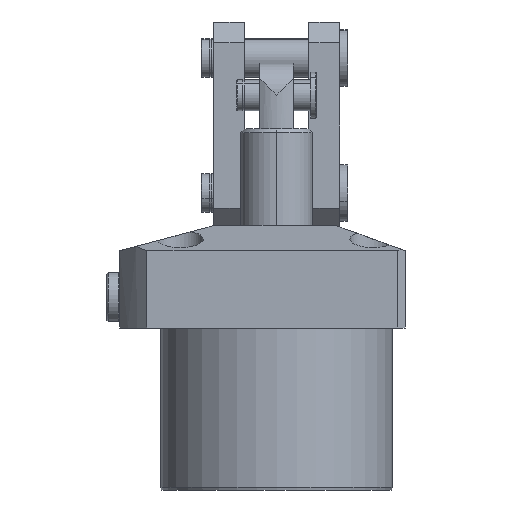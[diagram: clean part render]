
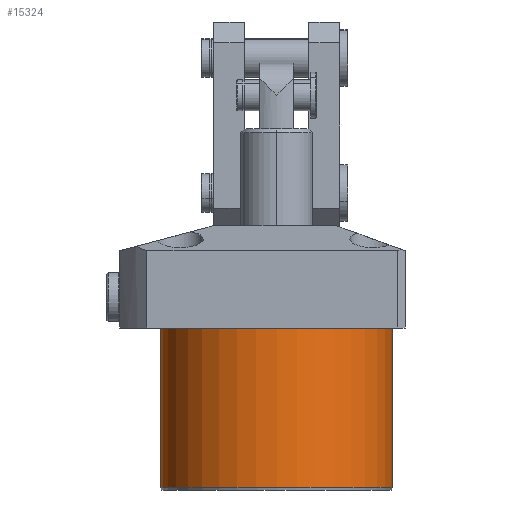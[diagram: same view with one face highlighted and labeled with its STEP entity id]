
A CAD part, front view. The second image highlights one B-rep face of the part: STEP entity #15324.
In plain terms, the highlighted cylindrical face has radius 45 mm (diameter 90 mm), a partial arc.
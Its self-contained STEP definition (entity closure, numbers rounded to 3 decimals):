
#37 = VERTEX_POINT ( 'NONE', #11330 ) ;
#71 = ORIENTED_EDGE ( 'NONE', *, *, #2460, .T. ) ;
#140 = CARTESIAN_POINT ( 'NONE',  ( -45., 0., 0. ) ) ;
#577 = DIRECTION ( 'NONE',  ( 0., 0., 1. ) ) ;
#1499 = CIRCLE ( 'NONE', #11914, 45. ) ;
#1881 = LINE ( 'NONE', #4262, #15662 ) ;
#2335 = VERTEX_POINT ( 'NONE', #140 ) ;
#2373 = ORIENTED_EDGE ( 'NONE', *, *, #9874, .T. ) ;
#2460 = EDGE_CURVE ( 'NONE', #12181, #2335, #1499, .T. ) ;
#2752 = CARTESIAN_POINT ( 'NONE',  ( 0., 0., -63. ) ) ;
#3045 = EDGE_CURVE ( 'NONE', #14276, #12181, #14637, .T. ) ;
#3112 = CARTESIAN_POINT ( 'NONE',  ( 45., 0., 0. ) ) ;
#3559 = EDGE_LOOP ( 'NONE', ( #12549, #2373, #9846, #71 ) ) ;
#3628 = DIRECTION ( 'NONE',  ( 0., 0., 1. ) ) ;
#4158 = EDGE_CURVE ( 'NONE', #37, #2335, #1881, .T. ) ;
#4262 = CARTESIAN_POINT ( 'NONE',  ( -45., 0., -63. ) ) ;
#4546 = AXIS2_PLACEMENT_3D ( 'NONE', #8515, #577, #9878 ) ;
#7158 = CYLINDRICAL_SURFACE ( 'NONE', #10711, 45. ) ;
#8515 = CARTESIAN_POINT ( 'NONE',  ( 0., 0., -62. ) ) ;
#9185 = CIRCLE ( 'NONE', #4546, 45. ) ;
#9846 = ORIENTED_EDGE ( 'NONE', *, *, #3045, .T. ) ;
#9874 = EDGE_CURVE ( 'NONE', #37, #14276, #9185, .T. ) ;
#9878 = DIRECTION ( 'NONE',  ( -1., 0., 0. ) ) ;
#10634 = VECTOR ( 'NONE', #11948, 1000. ) ;
#10711 = AXIS2_PLACEMENT_3D ( 'NONE', #2752, #14681, #12029 ) ;
#11330 = CARTESIAN_POINT ( 'NONE',  ( -45., 0., -62. ) ) ;
#11843 = CARTESIAN_POINT ( 'NONE',  ( 45., 0., -63. ) ) ;
#11914 = AXIS2_PLACEMENT_3D ( 'NONE', #16527, #16490, #16456 ) ;
#11948 = DIRECTION ( 'NONE',  ( 0., 0., 1. ) ) ;
#12029 = DIRECTION ( 'NONE',  ( 1., 0., 0. ) ) ;
#12181 = VERTEX_POINT ( 'NONE', #3112 ) ;
#12549 = ORIENTED_EDGE ( 'NONE', *, *, #4158, .F. ) ;
#12958 = CARTESIAN_POINT ( 'NONE',  ( 45., 0., -62. ) ) ;
#14276 = VERTEX_POINT ( 'NONE', #12958 ) ;
#14336 = FACE_OUTER_BOUND ( 'NONE', #3559, .T. ) ;
#14637 = LINE ( 'NONE', #11843, #10634 ) ;
#14681 = DIRECTION ( 'NONE',  ( 0., 0., 1. ) ) ;
#15324 = ADVANCED_FACE ( 'NONE', ( #14336 ), #7158, .T. ) ;
#15662 = VECTOR ( 'NONE', #3628, 1000. ) ;
#16456 = DIRECTION ( 'NONE',  ( 1., 0., 0. ) ) ;
#16490 = DIRECTION ( 'NONE',  ( 0., 0., -1. ) ) ;
#16527 = CARTESIAN_POINT ( 'NONE',  ( 0., 0., 0. ) ) ;
